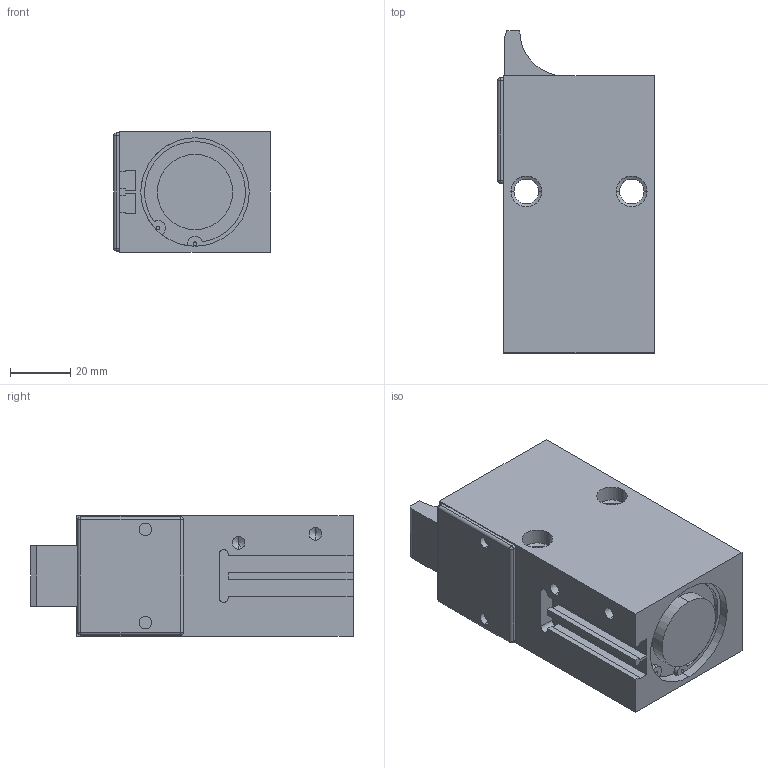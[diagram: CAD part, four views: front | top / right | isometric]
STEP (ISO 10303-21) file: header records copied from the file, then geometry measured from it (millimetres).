
FILE_DESCRIPTION (( 'STEP AP203' ), '1' );
FILE_NAME ('D0400-15-EW-E.STEP', '2011-10-12T08:57:55', ( 'test' ), ( '' ), 'SwSTEP 2.0', 'SolidWorks 2010', '' );
FILE_SCHEMA (( 'CONFIG_CONTROL_DESIGN' ));
Length unit declared in the file: millimetre
Products named in the file (1): D0400-15-EW-E
Bounding box: 52 x 107 x 40 mm (x, y, z)
Volume: 174390.6 mm3; surface area: 30797.5 mm2
Topology: 1 solids, 1 shells, 131 faces, 324 edges, 192 vertices
Faces by surface type: cylinder 58, plane 49, cone 20, sphere 4
Entity records: 3825 total; most frequent: DIRECTION 690, CARTESIAN_POINT 632, ORIENTED_EDGE 616, EDGE_CURVE 308, AXIS2_PLACEMENT_3D 250, VERTEX_POINT 192, VECTOR 190, LINE 190
